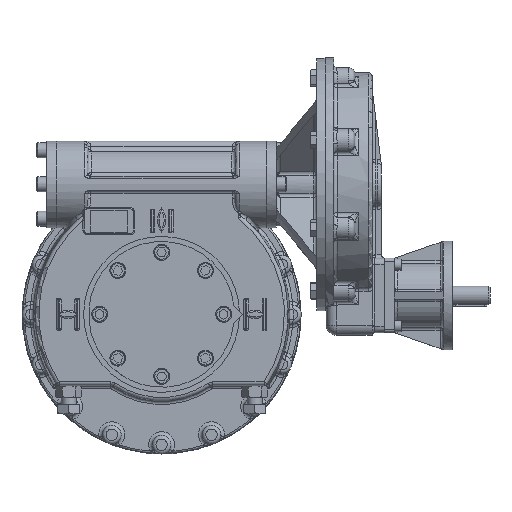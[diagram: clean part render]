
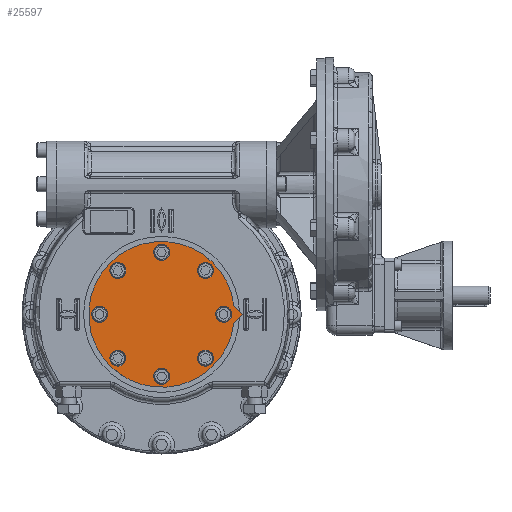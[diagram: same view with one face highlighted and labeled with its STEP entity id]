
A CAD part, top view. The second image highlights one B-rep face of the part: STEP entity #25597.
In plain terms, the highlighted planar face has unit normal (0, 0, 1).
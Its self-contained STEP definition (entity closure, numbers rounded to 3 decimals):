
#3260=CIRCLE('',#29794,117.5);
#3269=CIRCLE('',#29807,8.5);
#3270=CIRCLE('',#29808,8.5);
#3271=CIRCLE('',#29809,8.5);
#3272=CIRCLE('',#29810,8.5);
#3273=CIRCLE('',#29811,8.5);
#3274=CIRCLE('',#29812,8.5);
#3275=CIRCLE('',#29813,8.5);
#3276=CIRCLE('',#29814,8.5);
#9995=ORIENTED_EDGE('',*,*,#14323,.F.);
#9996=ORIENTED_EDGE('',*,*,#14324,.F.);
#9997=ORIENTED_EDGE('',*,*,#14325,.F.);
#9998=ORIENTED_EDGE('',*,*,#14326,.F.);
#9999=ORIENTED_EDGE('',*,*,#14327,.F.);
#10000=ORIENTED_EDGE('',*,*,#14328,.F.);
#10001=ORIENTED_EDGE('',*,*,#14329,.F.);
#10002=ORIENTED_EDGE('',*,*,#14330,.F.);
#10003=ORIENTED_EDGE('',*,*,#14308,.T.);
#10004=ORIENTED_EDGE('',*,*,#14312,.T.);
#10005=ORIENTED_EDGE('',*,*,#14314,.T.);
#14308=EDGE_CURVE('',#17359,#17358,#3260,.T.);
#14312=EDGE_CURVE('',#17358,#17361,#19001,.T.);
#14314=EDGE_CURVE('',#17361,#17359,#19003,.T.);
#14323=EDGE_CURVE('',#17370,#17370,#3269,.T.);
#14324=EDGE_CURVE('',#17371,#17371,#3270,.T.);
#14325=EDGE_CURVE('',#17372,#17372,#3271,.T.);
#14326=EDGE_CURVE('',#17373,#17373,#3272,.T.);
#14327=EDGE_CURVE('',#17374,#17374,#3273,.T.);
#14328=EDGE_CURVE('',#17375,#17375,#3274,.T.);
#14329=EDGE_CURVE('',#17376,#17376,#3275,.T.);
#14330=EDGE_CURVE('',#17377,#17377,#3276,.T.);
#17358=VERTEX_POINT('',#71517);
#17359=VERTEX_POINT('',#71519);
#17361=VERTEX_POINT('',#71525);
#17370=VERTEX_POINT('',#71549);
#17371=VERTEX_POINT('',#71551);
#17372=VERTEX_POINT('',#71553);
#17373=VERTEX_POINT('',#71555);
#17374=VERTEX_POINT('',#71557);
#17375=VERTEX_POINT('',#71559);
#17376=VERTEX_POINT('',#71561);
#17377=VERTEX_POINT('',#71563);
#19001=LINE('',#71526,#20560);
#19003=LINE('',#71529,#20562);
#20560=VECTOR('',#35965,1000.);
#20562=VECTOR('',#35969,1000.);
#22116=EDGE_LOOP('',(#9995));
#22117=EDGE_LOOP('',(#9996));
#22118=EDGE_LOOP('',(#9997));
#22119=EDGE_LOOP('',(#9998));
#22120=EDGE_LOOP('',(#9999));
#22121=EDGE_LOOP('',(#10000));
#22122=EDGE_LOOP('',(#10001));
#22123=EDGE_LOOP('',(#10002));
#22124=EDGE_LOOP('',(#10003,#10004,#10005));
#23726=FACE_BOUND('',#22116,.T.);
#23727=FACE_BOUND('',#22117,.T.);
#23728=FACE_BOUND('',#22118,.T.);
#23729=FACE_BOUND('',#22119,.T.);
#23730=FACE_BOUND('',#22120,.T.);
#23731=FACE_BOUND('',#22121,.T.);
#23732=FACE_BOUND('',#22122,.T.);
#23733=FACE_BOUND('',#22123,.T.);
#23734=FACE_BOUND('',#22124,.T.);
#24282=PLANE('',#29806);
#25597=ADVANCED_FACE('',(#23726,#23727,#23728,#23729,#23730,#23731,#23732,
#23733,#23734),#24282,.T.);
#29794=AXIS2_PLACEMENT_3D('',#71518,#35958,#35959);
#29806=AXIS2_PLACEMENT_3D('',#71547,#35988,#35989);
#29807=AXIS2_PLACEMENT_3D('',#71548,#35990,#35991);
#29808=AXIS2_PLACEMENT_3D('',#71550,#35992,#35993);
#29809=AXIS2_PLACEMENT_3D('',#71552,#35994,#35995);
#29810=AXIS2_PLACEMENT_3D('',#71554,#35996,#35997);
#29811=AXIS2_PLACEMENT_3D('',#71556,#35998,#35999);
#29812=AXIS2_PLACEMENT_3D('',#71558,#36000,#36001);
#29813=AXIS2_PLACEMENT_3D('',#71560,#36002,#36003);
#29814=AXIS2_PLACEMENT_3D('',#71562,#36004,#36005);
#35958=DIRECTION('',(0.,0.,1.));
#35959=DIRECTION('',(1.,0.,0.));
#35965=DIRECTION('',(0.707,0.707,0.));
#35969=DIRECTION('',(-0.707,0.707,0.));
#35988=DIRECTION('',(0.,0.,1.));
#35989=DIRECTION('',(0.,-1.,0.));
#35990=DIRECTION('',(0.,0.,1.));
#35991=DIRECTION('',(0.707,-0.707,0.));
#35992=DIRECTION('',(0.,0.,1.));
#35993=DIRECTION('',(1.,0.,0.));
#35994=DIRECTION('',(0.,0.,1.));
#35995=DIRECTION('',(0.707,0.707,0.));
#35996=DIRECTION('',(0.,0.,1.));
#35997=DIRECTION('',(0.,1.,0.));
#35998=DIRECTION('',(0.,0.,1.));
#35999=DIRECTION('',(-0.707,0.707,0.));
#36000=DIRECTION('',(0.,0.,1.));
#36001=DIRECTION('',(-1.,0.,0.));
#36002=DIRECTION('',(0.,0.,1.));
#36003=DIRECTION('',(-0.707,-0.707,0.));
#36004=DIRECTION('',(0.,0.,1.));
#36005=DIRECTION('',(0.,-1.,0.));
#71517=CARTESIAN_POINT('',(116.751,-13.249,65.25));
#71518=CARTESIAN_POINT('',(0.,0.,65.25));
#71519=CARTESIAN_POINT('',(116.751,13.249,65.25));
#71525=CARTESIAN_POINT('',(130.,0.,65.25));
#71526=CARTESIAN_POINT('',(116.751,-13.249,65.25));
#71529=CARTESIAN_POINT('',(130.,0.,65.25));
#71547=CARTESIAN_POINT('',(0.,0.,65.25));
#71548=CARTESIAN_POINT('',(70.711,70.711,65.25));
#71549=CARTESIAN_POINT('',(76.721,64.7,65.25));
#71550=CARTESIAN_POINT('',(0.,100.,65.25));
#71551=CARTESIAN_POINT('',(8.5,100.,65.25));
#71552=CARTESIAN_POINT('',(-70.711,70.711,65.25));
#71553=CARTESIAN_POINT('',(-64.7,76.721,65.25));
#71554=CARTESIAN_POINT('',(-100.,0.,65.25));
#71555=CARTESIAN_POINT('',(-100.,8.5,65.25));
#71556=CARTESIAN_POINT('',(-70.711,-70.711,65.25));
#71557=CARTESIAN_POINT('',(-76.721,-64.7,65.25));
#71558=CARTESIAN_POINT('',(0.,-100.,65.25));
#71559=CARTESIAN_POINT('',(-8.5,-100.,65.25));
#71560=CARTESIAN_POINT('',(70.711,-70.711,65.25));
#71561=CARTESIAN_POINT('',(64.7,-76.721,65.25));
#71562=CARTESIAN_POINT('',(100.,0.,65.25));
#71563=CARTESIAN_POINT('',(100.,-8.5,65.25));
